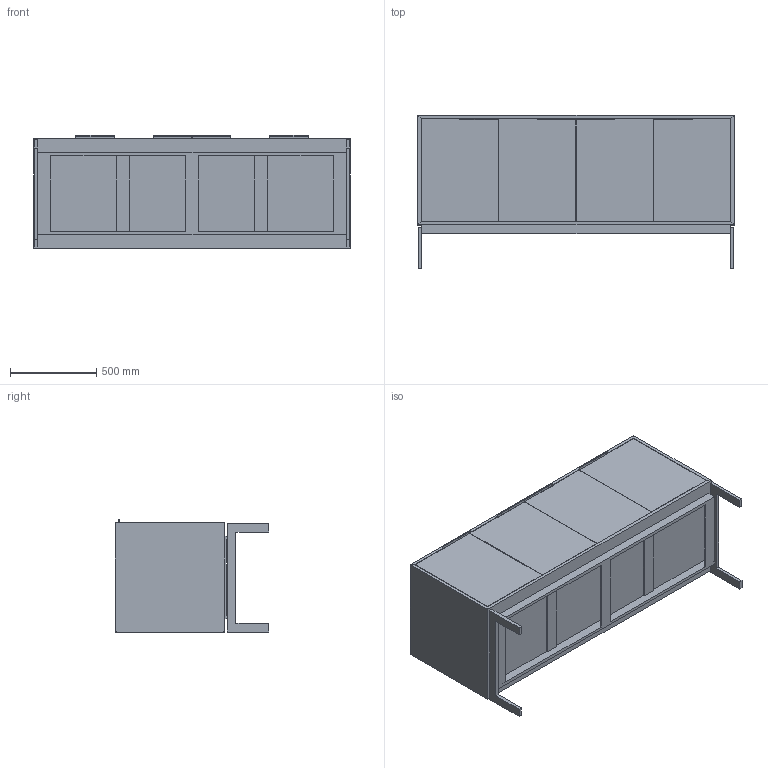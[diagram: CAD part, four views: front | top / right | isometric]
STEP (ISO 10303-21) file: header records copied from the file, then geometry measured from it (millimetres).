
FILE_DESCRIPTION(/* description */ ('','CAx-IF Rec.Pracs.---Representation and Presentation of Product Manufacturing Information (PMI)---4.0---2014-10-13'),/* implementation_level */ '2;1');
FILE_NAME(/* name */ 'CREDENZA STORAGE_ELEVATE 3.stp',/* time_stamp */ '2024-12-07T17:59:01-05:00',/* author */ ('mbowman'),/* organization */ (''),/* preprocessor_version */ 'ST-DEVELOPER v19.2',/* originating_system */ 'Autodesk Inventor 2023',/* authorisation */ '');
FILE_SCHEMA (('AP242_MANAGED_MODEL_BASED_3D_ENGINEERING_MIM_LF { 1 0 10303 442 1 1 4 }'));
Length unit declared in the file: inch
Products named in the file (3): ELEVATE^CREDENZA 35h_25x72 4 DOOR-SOLID ASSEMBLY; ELEVATE^CREDENZA 35h_25x72 4 DOOR-PARTS SOLID; HAFELE 106.04.06-3 FINISHES
Assembly tree (5 placements, depth 2):
  ELEVATE^CREDENZA 35h_25x72 4 DOOR-SOLID ASSEMBLY
    ELEVATE^CREDENZA 35h_25x72 4 DOOR-PARTS SOLID
    HAFELE 106.04.06-3 FINISHES  x4
Bounding box: 1828.8 x 889 x 654.05 mm (x, y, z)
Volume: 112379894.5 mm3; surface area: 13029929.9 mm2
Topology: 15 solids, 15 shells, 201 faces, 512 edges, 336 vertices
Faces by surface type: plane 169, cylinder 24, cone 8
Entity records: 5190 total; most frequent: CARTESIAN_POINT 1170, ORIENTED_EDGE 676, DIRECTION 656, EDGE_CURVE 338, LINE 322, VECTOR 322, STYLED_ITEM 286, VERTEX_POINT 222
